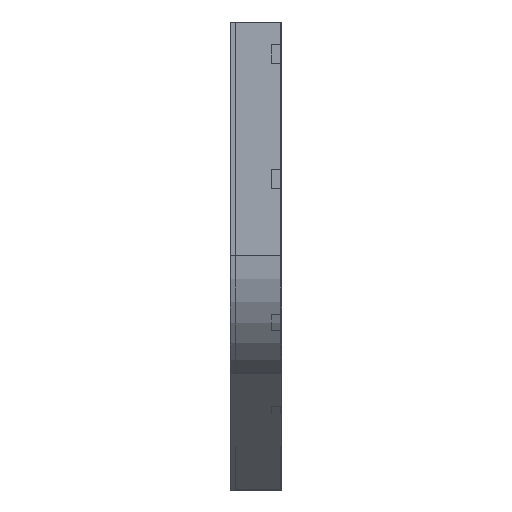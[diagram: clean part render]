
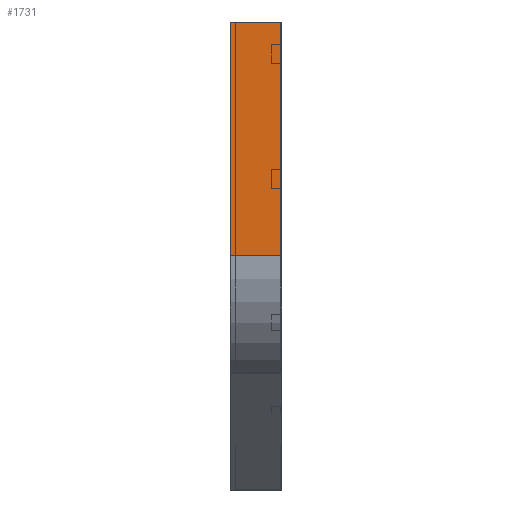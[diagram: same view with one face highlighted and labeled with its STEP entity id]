
A CAD part, left-side view. The second image highlights one B-rep face of the part: STEP entity #1731.
In plain terms, the highlighted planar face has unit normal (-1, 0, 0).
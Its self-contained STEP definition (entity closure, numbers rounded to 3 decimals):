
#30 = CARTESIAN_POINT ( 'NONE',  ( 0., 0., 0. ) ) ;
#102 = VERTEX_POINT ( 'NONE', #144 ) ;
#108 = PLANE ( 'NONE',  #374 ) ;
#111 = LINE ( 'NONE', #121, #957 ) ;
#121 = CARTESIAN_POINT ( 'NONE',  ( 0., 112.5, 0. ) ) ;
#122 = EDGE_LOOP ( 'NONE', ( #563, #1542, #1440, #342 ) ) ;
#144 = CARTESIAN_POINT ( 'NONE',  ( 0., 0., 0. ) ) ;
#234 = VERTEX_POINT ( 'NONE', #667 ) ;
#248 = LINE ( 'NONE', #1998, #1298 ) ;
#300 = LINE ( 'NONE', #30, #1551 ) ;
#342 = ORIENTED_EDGE ( 'NONE', *, *, #930, .T. ) ;
#372 = EDGE_CURVE ( 'NONE', #102, #1891, #248, .T. ) ;
#374 = AXIS2_PLACEMENT_3D ( 'NONE', #1834, #419, #1707 ) ;
#419 = DIRECTION ( 'NONE',  ( 1., 0., 0. ) ) ;
#423 = VECTOR ( 'NONE', #445, 1000. ) ;
#445 = DIRECTION ( 'NONE',  ( 0., -1., 0. ) ) ;
#459 = VERTEX_POINT ( 'NONE', #928 ) ;
#563 = ORIENTED_EDGE ( 'NONE', *, *, #372, .F. ) ;
#567 = DIRECTION ( 'NONE',  ( 0., 0., -1. ) ) ;
#585 = FACE_OUTER_BOUND ( 'NONE', #122, .T. ) ;
#667 = CARTESIAN_POINT ( 'NONE',  ( 0., 112.5, -511.88 ) ) ;
#742 = DIRECTION ( 'NONE',  ( 0., 0., -1. ) ) ;
#875 = EDGE_CURVE ( 'NONE', #459, #234, #111, .T. ) ;
#928 = CARTESIAN_POINT ( 'NONE',  ( 0., 112.5, 0. ) ) ;
#930 = EDGE_CURVE ( 'NONE', #234, #1891, #1543, .T. ) ;
#949 = DIRECTION ( 'NONE',  ( 0., -1., 0. ) ) ;
#957 = VECTOR ( 'NONE', #742, 1000. ) ;
#1211 = CARTESIAN_POINT ( 'NONE',  ( 0., 0., -511.88 ) ) ;
#1298 = VECTOR ( 'NONE', #567, 1000. ) ;
#1440 = ORIENTED_EDGE ( 'NONE', *, *, #875, .T. ) ;
#1542 = ORIENTED_EDGE ( 'NONE', *, *, #1974, .F. ) ;
#1543 = LINE ( 'NONE', #1211, #423 ) ;
#1551 = VECTOR ( 'NONE', #949, 1000. ) ;
#1707 = DIRECTION ( 'NONE',  ( 0., 0., -1. ) ) ;
#1731 = ADVANCED_FACE ( 'NONE', ( #585 ), #108, .F. ) ;
#1834 = CARTESIAN_POINT ( 'NONE',  ( 0., 0., 0. ) ) ;
#1891 = VERTEX_POINT ( 'NONE', #2016 ) ;
#1974 = EDGE_CURVE ( 'NONE', #459, #102, #300, .T. ) ;
#1998 = CARTESIAN_POINT ( 'NONE',  ( 0., 0., 0. ) ) ;
#2016 = CARTESIAN_POINT ( 'NONE',  ( 0., 0., -511.88 ) ) ;
